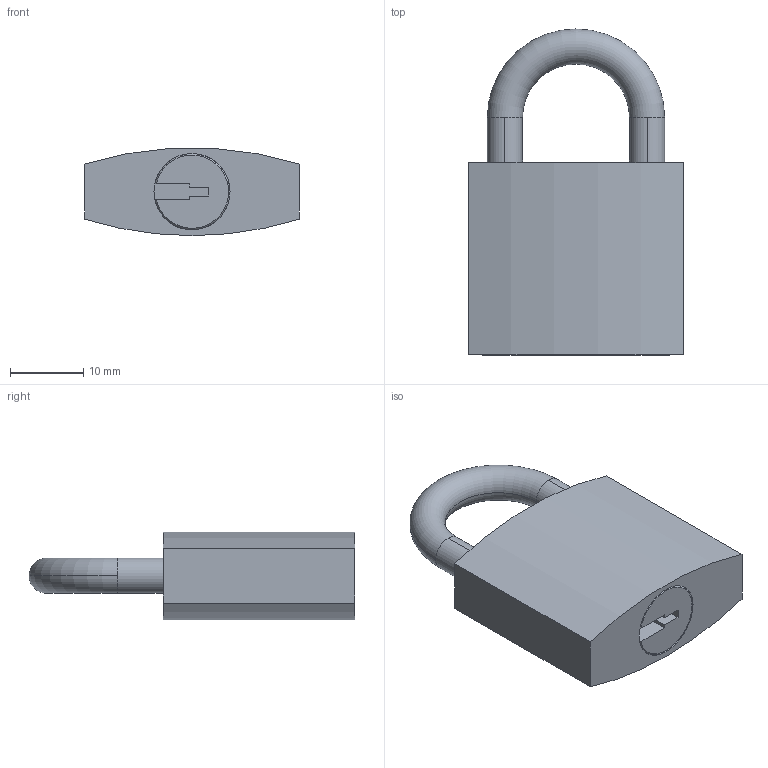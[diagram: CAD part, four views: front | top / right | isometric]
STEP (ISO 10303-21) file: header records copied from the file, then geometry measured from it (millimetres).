
FILE_DESCRIPTION (( 'STEP AP214' ), '1' );
FILE_NAME ('ELN-1000-30.STEP', '2016-02-15T04:39:00', ( '' ), ( '' ), 'SwSTEP 2.0', 'SolidWorks 2012', '' );
FILE_SCHEMA (( 'AUTOMOTIVE_DESIGN' ));
Length unit declared in the file: millimetre
Products named in the file (1): ELN-1000-30
Bounding box: 29.3 x 44.5 x 11.91 mm (x, y, z)
Volume: 8805 mm3; surface area: 3244.9 mm2
Topology: 1 solids, 1 shells, 25 faces, 66 edges, 44 vertices
Faces by surface type: plane 13, cylinder 9, torus 2, cone 1
Entity records: 827 total; most frequent: DIRECTION 143, CARTESIAN_POINT 142, ORIENTED_EDGE 132, EDGE_CURVE 66, AXIS2_PLACEMENT_3D 53, VERTEX_POINT 44, VECTOR 37, LINE 37
